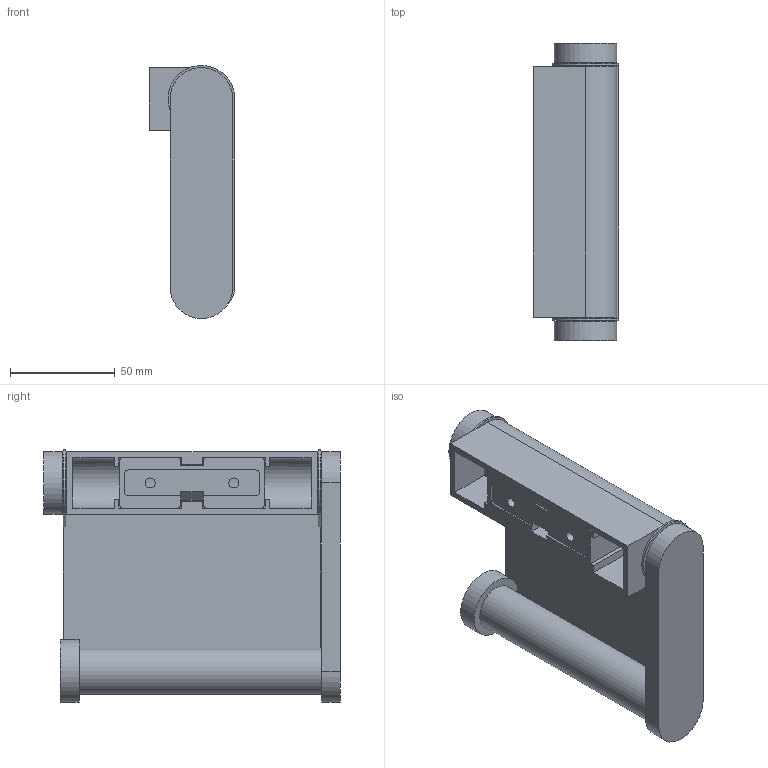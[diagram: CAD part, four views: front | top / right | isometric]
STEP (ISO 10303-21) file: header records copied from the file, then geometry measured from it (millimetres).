
FILE_DESCRIPTION(/* description */ (''),/* implementation_level */ '2;1');
FILE_NAME(/* name */ '4111 661',/* time_stamp */ '2019-08-20T09:43:24+08:00',/* author */ (''),/* organization */ (''),/* preprocessor_version */ 'ST-DEVELOPER v9',/* originating_system */ 'UGS - NX 4.0',/* authorisation */ '');
FILE_SCHEMA (('CONFIG_CONTROL_DESIGN'));
Length unit declared in the file: millimetre
Products named in the file (1): w337D95ig54
Bounding box: 41 x 142 x 120.99 mm (x, y, z)
Volume: 129907.5 mm3; surface area: 99876.5 mm2
Topology: 11 solids, 11 shells, 152 faces, 369 edges, 248 vertices
Faces by surface type: plane 99, cylinder 53
Full cylindrical faces by diameter (mm): 4.2 x2, 4.8 x2, 5 x10, 5.2 x1, 20.4 x1, 22 x1, 22.1 x1, 22.2 x1, 28 x4, 30 x2
Entity records: 4414 total; most frequent: DIRECTION 762, CARTESIAN_POINT 733, ORIENTED_EDGE 676, EDGE_CURVE 338, AXIS2_PLACEMENT_3D 271, VERTEX_POINT 242, LINE 220, VECTOR 220
